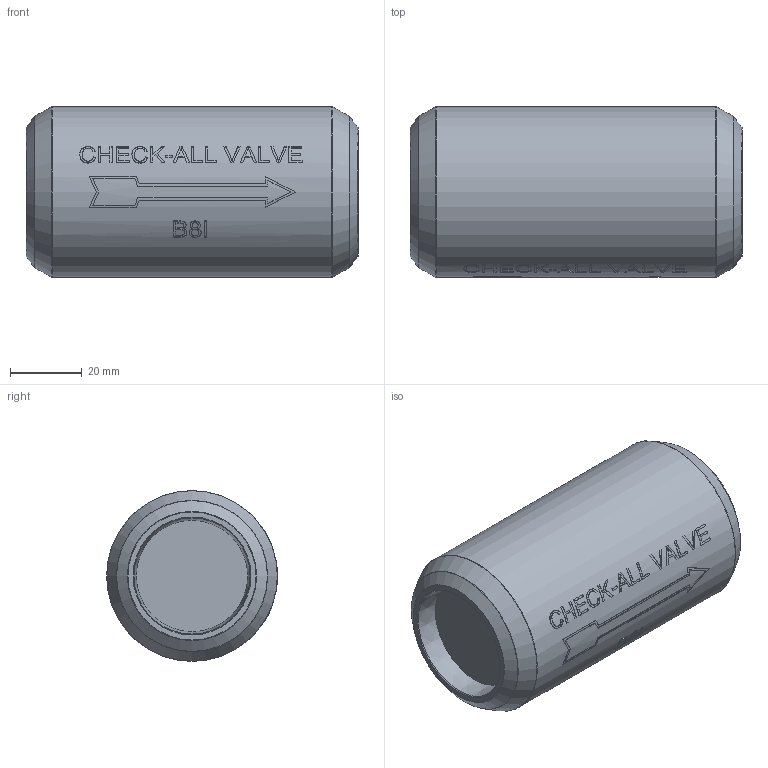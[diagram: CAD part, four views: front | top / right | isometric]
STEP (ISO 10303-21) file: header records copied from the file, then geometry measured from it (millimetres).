
FILE_DESCRIPTION(/* description */ ('Unknown'),/* implementation_level */ '2;1');
FILE_NAME(/* name */ 'B8I',/* time_stamp */ '2017-01-18T10:27:05-06:00',/* author */ ('Unknown'),/* organization */ ('Unknown'),/* preprocessor_version */ 'ST-DEVELOPER v16.7',/* originating_system */ 'DEX',/* authorisation */ $);
FILE_SCHEMA (('AUTOMOTIVE_DESIGN {1 0 10303 214 3 1 1}'));
Length unit declared in the file: millimetre
Products named in the file (1): B8I
Bounding box: 92.53 x 47.62 x 47.62 mm (x, y, z)
Volume: 149826.4 mm3; surface area: 17510.3 mm2
Topology: 1 solids, 1 shells, 197 faces, 495 edges, 327 vertices
Faces by surface type: plane 104, bspline 53, cylinder 27, torus 8, cone 5
Full cylindrical faces by diameter (mm): 32.461 x1, 47.625 x1
Entity records: 11385 total; most frequent: CARTESIAN_POINT 5609, ORIENTED_EDGE 950, DIRECTION 757, EDGE_CURVE 475, VERTEX_POINT 324, LINE 267, VECTOR 267, AXIS2_PLACEMENT_3D 245
